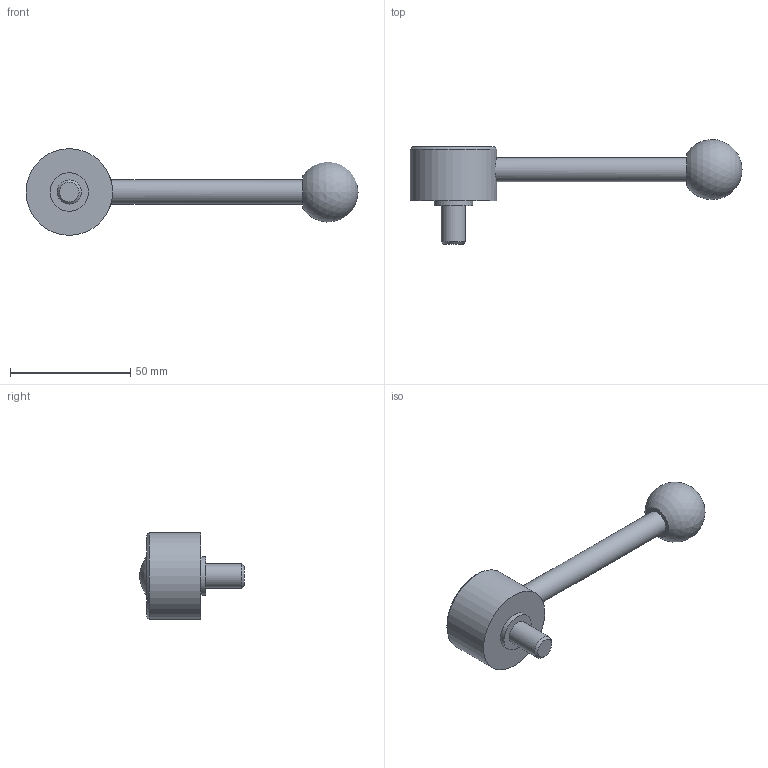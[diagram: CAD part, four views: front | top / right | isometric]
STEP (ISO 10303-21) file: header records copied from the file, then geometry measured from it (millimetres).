
FILE_DESCRIPTION( ( 'STEP AP203' ), '1' );
FILE_NAME( 'C:/Temp/Ganter_Step_05_03_2020/data/2_1/gn_125/gn_125_ms/gn_125_ms_d/Flat Adjustable Lever GN 125-36-M10-16-D.stp', '2020-03-05T11:00:47', ( 'License CC BY-ND 4.0' ), ( 'CADENAS' ), ' ', 'PARTsolutions', ' ' );
FILE_SCHEMA( ( 'CONFIG_CONTROL_DESIGN' ) );
Length unit declared in the file: millimetre
Products named in the file (1): _Flat Adjustable Lever GN 125-36-M10-16-D
Bounding box: 138 x 43.38 x 36 mm (x, y, z)
Volume: 38610.3 mm3; surface area: 9404.3 mm2
Topology: 1 solids, 1 shells, 14 faces, 23 edges, 15 vertices
Faces by surface type: plane 6, cylinder 5, cone 2, sphere 1
Full cylindrical faces by diameter (mm): 10 x2, 16 x1, 26 x1, 36 x1
Entity records: 392 total; most frequent: CARTESIAN_POINT 115, DIRECTION 54, AXIS2_PLACEMENT_3D 27, EDGE_LOOP 26, ORIENTED_EDGE 26, FACE_OUTER_BOUND 19, ADVANCED_FACE 14, VERTEX_POINT 14
